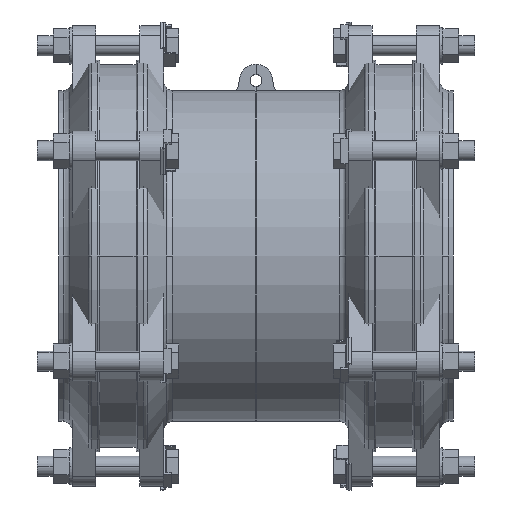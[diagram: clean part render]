
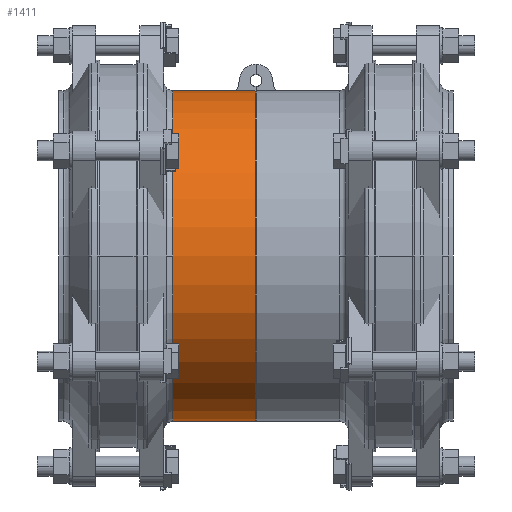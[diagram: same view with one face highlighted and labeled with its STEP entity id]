
A CAD part, front view. The second image highlights one B-rep face of the part: STEP entity #1411.
In plain terms, the highlighted cylindrical face has radius 166.75 mm (diameter 333.5 mm), a partial arc.
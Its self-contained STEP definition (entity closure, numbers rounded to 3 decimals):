
#1411=ADVANCED_FACE('',(#3270),#3271,.T.);
#3270=FACE_OUTER_BOUND('',#6053,.T.);
#3271=CYLINDRICAL_SURFACE('',#6054,166.75);
#6053=EDGE_LOOP('',(#8551,#8552,#8553,#8554,#8555));
#6054=AXIS2_PLACEMENT_3D('',#8556,#8557,#8558);
#8551=ORIENTED_EDGE('',*,*,#15212,.F.);
#8552=ORIENTED_EDGE('',*,*,#15213,.T.);
#8553=ORIENTED_EDGE('',*,*,#15214,.T.);
#8554=ORIENTED_EDGE('',*,*,#15215,.F.);
#8555=ORIENTED_EDGE('',*,*,#15216,.F.);
#8556=CARTESIAN_POINT('',(84.544,-504.038,291.003));
#8557=DIRECTION('',(1.0,0.,0.));
#8558=DIRECTION('',(0.,0.,1.0));
#15212=EDGE_CURVE('',#17887,#17888,#17889,.T.);
#15213=EDGE_CURVE('',#17887,#17890,#17891,.T.);
#15214=EDGE_CURVE('',#17890,#17892,#17893,.T.);
#15215=EDGE_CURVE('',#17894,#17892,#17895,.T.);
#15216=EDGE_CURVE('',#17888,#17894,#17896,.T.);
#17887=VERTEX_POINT('',#21737);
#17888=VERTEX_POINT('',#21738);
#17889=LINE('',#21739,#21740);
#17890=VERTEX_POINT('',#21741);
#17891=CIRCLE('',#21742,166.75);
#17892=VERTEX_POINT('',#21743);
#17893=CIRCLE('',#21744,166.75);
#17894=VERTEX_POINT('',#21745);
#17895=LINE('',#21746,#21747);
#17896=CIRCLE('',#21748,166.75);
#21737=CARTESIAN_POINT('',(42.585,-504.038,457.753));
#21738=CARTESIAN_POINT('',(126.502,-504.038,457.753));
#21739=CARTESIAN_POINT('',(84.544,-504.038,457.753));
#21740=VECTOR('',#26752,1.0);
#21741=CARTESIAN_POINT('',(42.585,-670.788,291.003));
#21742=AXIS2_PLACEMENT_3D('',#26753,#26754,#26755);
#21743=CARTESIAN_POINT('',(42.585,-504.038,124.253));
#21744=AXIS2_PLACEMENT_3D('',#26756,#26757,#26758);
#21745=CARTESIAN_POINT('',(126.502,-504.038,124.253));
#21746=CARTESIAN_POINT('',(84.544,-504.038,124.253));
#21747=VECTOR('',#26759,1.0);
#21748=AXIS2_PLACEMENT_3D('',#26760,#26761,#26762);
#26752=DIRECTION('',(1.0,0.,0.));
#26753=CARTESIAN_POINT('',(42.585,-504.038,291.003));
#26754=DIRECTION('',(1.0,0.,0.));
#26755=DIRECTION('',(0.,0.,1.0));
#26756=CARTESIAN_POINT('',(42.585,-504.038,291.003));
#26757=DIRECTION('',(1.0,0.,0.));
#26758=DIRECTION('',(0.,0.,1.0));
#26759=DIRECTION('',(-1.0,0.,0.));
#26760=CARTESIAN_POINT('',(126.502,-504.038,291.003));
#26761=DIRECTION('',(1.0,0.,0.));
#26762=DIRECTION('',(0.,0.,1.0));
